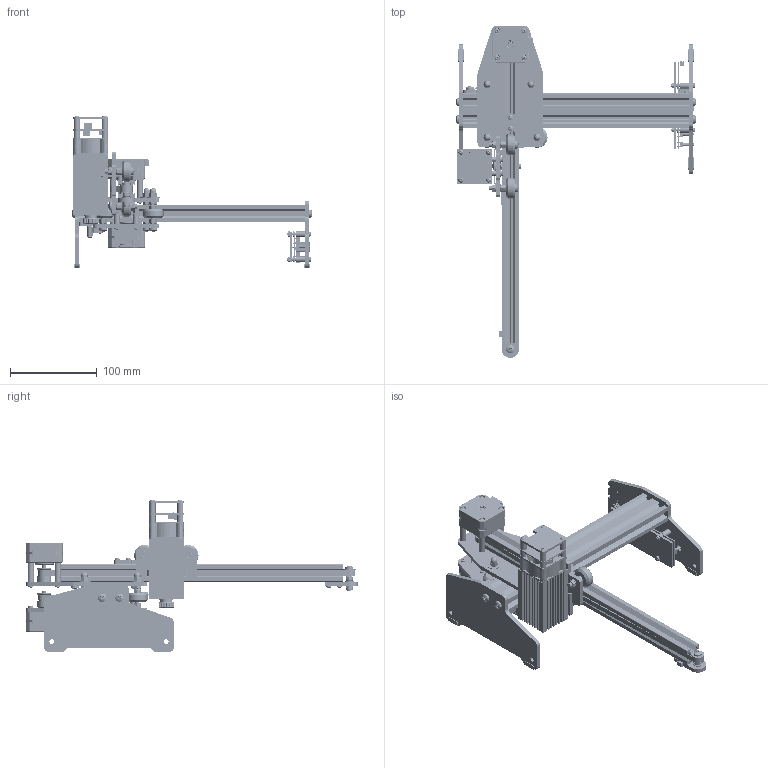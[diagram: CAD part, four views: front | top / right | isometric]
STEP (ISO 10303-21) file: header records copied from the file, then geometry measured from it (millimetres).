
FILE_DESCRIPTION(('FreeCAD Model'),'2;1');
FILE_NAME('Open CASCADE Shape Model','2025-05-28T02:07:26',(''),(''), 'Open CASCADE STEP processor 7.8','FreeCAD','Unknown');
FILE_SCHEMA(('AUTOMOTIVE_DESIGN { 1 0 10303 214 1 1 1 1 }'));
Length unit declared in the file: millimetre
Products named in the file (164): Ortur AL1; Base; 2040_Extrusion; Legs; Leg, Left; Leg, Right; Foot; Screws; M5x12-Screw; Endstop Post; Endstop Post Plate; M3 x 20 series-TSlot; M3x10-Screw; M3x20-Screw; M3x11x5.5-Spacer; X-Axis GT Belt Track Binders; Adjustment Plate; M5x10-Screw; M3x6-Screw; Controller; Backer Plate; Controller Electronics; Controller PCB Stand-In; 61400413321; 61400413321_Insulator; 61400413321_Pin; 61400413321_Pin_2; 61400413321_Shielding; CUI_DEVICES_PJ-090BH; Tactile Switch - Thru (6mmx 6mmx4.3mm, 16mm Stem); JST Connectors; JST - PH - Thru (R) - 8Pin - 2.00mm; JST - PH - Thru (R) - 2Pin - 2.00mm; JST - PH - Thru (R) - 4Pin - 2.00mm; Spacers Screws; Spacer Stack; M3x25-Screw; M3-Nut; Spacer 1.75mm; Spacer, 11mm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
Assembly tree (219 placements, depth 7):
  Ortur AL1
    Base
      2040_Extrusion
      Legs
        Leg, Left
        Leg, Right
        Foot  x4
      Screws
        M5x12-Screw  x4
      Endstop Post
        Endstop Post Plate
        M3 x 20 series-TSlot  x2
        M3x10-Screw
        M3x20-Screw
        M3x11x5.5-Spacer
      X-Axis GT Belt Track Binders
        Adjustment Plate
        M5x10-Screw
        M3 x 20 series-TSlot
        M3x6-Screw
      Controller
        Backer Plate
        Controller Electronics
          Controller PCB Stand-In
          61400413321
            61400413321_Insulator
            61400413321_Pin
            61400413321_Pin
            61400413321_Pin_2
            61400413321_Pin_2
            61400413321_Shielding
          CUI_DEVICES_PJ-090BH
            CUI_DEVICES_PJ-090BH
            CUI_DEVICES_PJ-090BH
          Tactile Switch - Thru (6mmx 6mmx4.3mm, 16mm Stem)  x2
          JST Connectors
            JST - PH - Thru (R) - 8Pin - 2.00mm
            JST - PH - Thru (R) - 2Pin - 2.00mm
            JST - PH - Thru (R) - 4Pin - 2.00mm
        Spacers Screws
          Spacer Stack  x4
            M3x25-Screw
            M3-Nut
            Spacer 1.75mm
            Spacer, 11mm
    X Carraige
      Y Carraige
        Carraige Plate
        Rollers
          Roller Stack, Top  x2
            M5x30-Screw
            M5-Washer
            M5-Nut
            M5x6x8-Spacer
            Rubber Roller on Bearing
          Roller, Stack, Bottom
            M5x30-Screw
            M5-Washer
            M5-Washer
            M5-Nut
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Bounding box: 276.76 x 382 x 175.95 mm (x, y, z)
Volume: 563909.3 mm3; surface area: 449081.2 mm2
Topology: 233 solids, 420 shells, 7837 faces, 21352 edges, 14339 vertices
Faces by surface type: plane 4904, cylinder 1403, cone 868, bspline 442, torus 106, sphere 79, revolution 35
Full cylindrical faces by diameter (mm): 0.848 x8, 1.321 x1, 1.511 x1, 2.184 x4, 2.3 x2, 2.459 x13, 2.46 x3, 2.5 x4, 3 x37, 3.1 x26, 3.2 x40, 4 x8, 4.134 x13, 4.135 x11, 4.2 x9, 5 x34, 5.1 x10, 5.2 x1, 5.3 x23, 5.467 x2, 5.5 x1, 5.6 x25, 6.9 x8, 7 x15, 7.5 x4, 7.992 x2, 8 x1, 9 x5, 9.5 x15, 10 x5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
Entity records: 429266 total; most frequent: CARTESIAN_POINT 130415, DIRECTION 48690, ORIENTED_EDGE 29312, PCURVE 29312, DEFINITIONAL_REPRESENTATION 29312, LINE 28715, VECTOR 28715, EDGE_CURVE 15484
